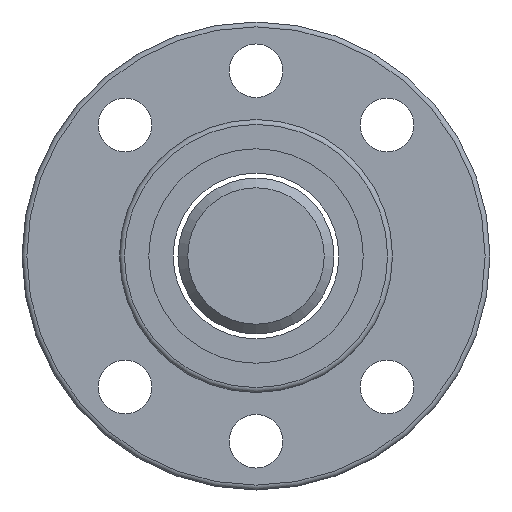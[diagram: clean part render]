
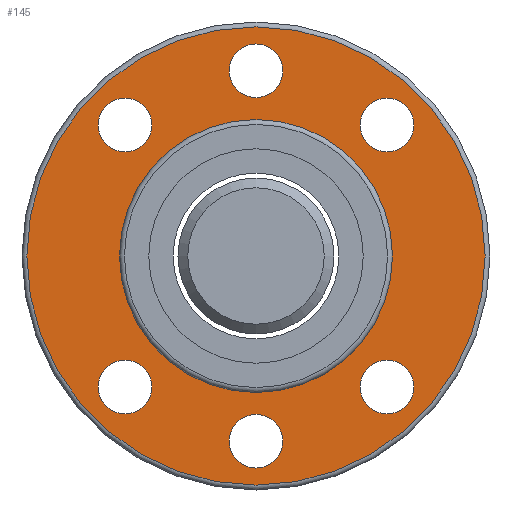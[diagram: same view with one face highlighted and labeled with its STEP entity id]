
A CAD part, left-side view. The second image highlights one B-rep face of the part: STEP entity #145.
In plain terms, the highlighted planar face has unit normal (-1, 0, 0).
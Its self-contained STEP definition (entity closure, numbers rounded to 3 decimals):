
#114=PLANE('',#534);
#127=FACE_OUTER_BOUND('',#272,.T.);
#145=ADVANCED_FACE('',(#196,#197,#198,#199,#200,#201,#202,#127),#114,.T.);
#196=FACE_BOUND('',#265,.T.);
#197=FACE_BOUND('',#266,.T.);
#198=FACE_BOUND('',#267,.T.);
#199=FACE_BOUND('',#268,.T.);
#200=FACE_BOUND('',#269,.T.);
#201=FACE_BOUND('',#270,.T.);
#202=FACE_BOUND('',#271,.T.);
#265=EDGE_LOOP('',(#339));
#266=EDGE_LOOP('',(#340));
#267=EDGE_LOOP('',(#341));
#268=EDGE_LOOP('',(#342));
#269=EDGE_LOOP('',(#343));
#270=EDGE_LOOP('',(#344));
#271=EDGE_LOOP('',(#345));
#272=EDGE_LOOP('',(#346));
#339=ORIENTED_EDGE('',*,*,#438,.F.);
#340=ORIENTED_EDGE('',*,*,#439,.F.);
#341=ORIENTED_EDGE('',*,*,#440,.F.);
#342=ORIENTED_EDGE('',*,*,#441,.F.);
#343=ORIENTED_EDGE('',*,*,#442,.F.);
#344=ORIENTED_EDGE('',*,*,#443,.F.);
#345=ORIENTED_EDGE('',*,*,#444,.T.);
#346=ORIENTED_EDGE('',*,*,#445,.F.);
#401=VERTEX_POINT('',#749);
#402=VERTEX_POINT('',#751);
#403=VERTEX_POINT('',#753);
#404=VERTEX_POINT('',#755);
#405=VERTEX_POINT('',#757);
#406=VERTEX_POINT('',#759);
#407=VERTEX_POINT('',#761);
#408=VERTEX_POINT('',#763);
#438=EDGE_CURVE('',#401,#401,#475,.T.);
#439=EDGE_CURVE('',#402,#402,#476,.T.);
#440=EDGE_CURVE('',#403,#403,#477,.T.);
#441=EDGE_CURVE('',#404,#404,#478,.T.);
#442=EDGE_CURVE('',#405,#405,#479,.T.);
#443=EDGE_CURVE('',#406,#406,#480,.T.);
#444=EDGE_CURVE('',#407,#407,#481,.T.);
#445=EDGE_CURVE('',#408,#408,#482,.T.);
#475=CIRCLE('',#526,2.75);
#476=CIRCLE('',#527,2.75);
#477=CIRCLE('',#528,2.75);
#478=CIRCLE('',#529,2.75);
#479=CIRCLE('',#530,2.75);
#480=CIRCLE('',#531,2.75);
#481=CIRCLE('',#532,14.);
#482=CIRCLE('',#533,23.5);
#526=AXIS2_PLACEMENT_3D('',#748,#622,#623);
#527=AXIS2_PLACEMENT_3D('',#750,#624,#625);
#528=AXIS2_PLACEMENT_3D('',#752,#626,#627);
#529=AXIS2_PLACEMENT_3D('',#754,#628,#629);
#530=AXIS2_PLACEMENT_3D('',#756,#630,#631);
#531=AXIS2_PLACEMENT_3D('',#758,#632,#633);
#532=AXIS2_PLACEMENT_3D('',#760,#634,#635);
#533=AXIS2_PLACEMENT_3D('',#762,#636,#637);
#534=AXIS2_PLACEMENT_3D('',#764,#638,#639);
#622=DIRECTION('',(-1.,0.,0.));
#623=DIRECTION('',(0.,-1.,0.));
#624=DIRECTION('',(-1.,0.,0.));
#625=DIRECTION('',(0.,-1.,0.));
#626=DIRECTION('',(-1.,0.,0.));
#627=DIRECTION('',(0.,-1.,0.));
#628=DIRECTION('',(-1.,0.,0.));
#629=DIRECTION('',(0.,-1.,0.));
#630=DIRECTION('',(-1.,0.,0.));
#631=DIRECTION('',(0.,-1.,0.));
#632=DIRECTION('',(-1.,0.,0.));
#633=DIRECTION('',(0.,-1.,0.));
#634=DIRECTION('',(1.,0.,0.));
#635=DIRECTION('',(0.,1.,0.));
#636=DIRECTION('',(1.,0.,0.));
#637=DIRECTION('',(0.,1.,0.));
#638=DIRECTION('',(-1.,0.,0.));
#639=DIRECTION('',(0.,-1.,0.));
#748=CARTESIAN_POINT('',(-25.,0.,-19.));
#749=CARTESIAN_POINT('',(-25.,-2.75,-19.));
#750=CARTESIAN_POINT('',(-25.,0.,19.));
#751=CARTESIAN_POINT('',(-25.,-2.75,19.));
#752=CARTESIAN_POINT('',(-25.,13.44,-13.44));
#753=CARTESIAN_POINT('',(-25.,10.69,-13.44));
#754=CARTESIAN_POINT('',(-25.,-13.44,-13.44));
#755=CARTESIAN_POINT('',(-25.,-16.19,-13.44));
#756=CARTESIAN_POINT('',(-25.,-13.44,13.44));
#757=CARTESIAN_POINT('',(-25.,-16.19,13.44));
#758=CARTESIAN_POINT('',(-25.,13.44,13.44));
#759=CARTESIAN_POINT('',(-25.,10.69,13.44));
#760=CARTESIAN_POINT('',(-25.,0.,0.));
#761=CARTESIAN_POINT('',(-25.,14.,0.));
#762=CARTESIAN_POINT('',(-25.,0.,0.));
#763=CARTESIAN_POINT('',(-25.,23.5,0.));
#764=CARTESIAN_POINT('',(-25.,18.75,0.));
